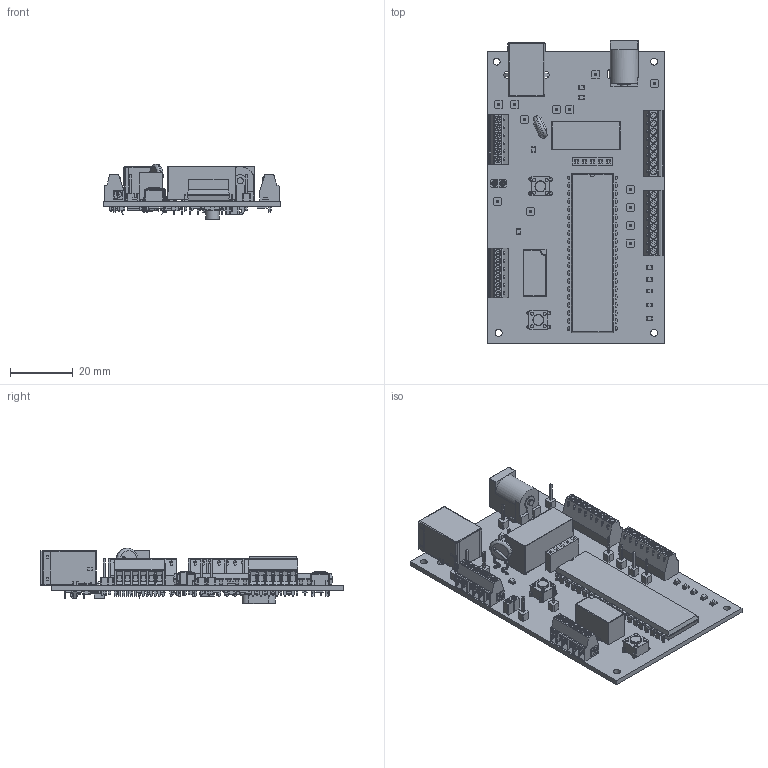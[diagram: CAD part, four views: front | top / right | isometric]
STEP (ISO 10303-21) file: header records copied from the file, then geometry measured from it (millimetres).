
FILE_DESCRIPTION(('KiCad electronic assembly'),'2;1');
FILE_NAME('2SP_Saila.step','2019-05-26T16:36:20',('An Author'),( 'A Company'),'Open CASCADE STEP processor 6.9', 'KiCad to STEP converter','Unknown');
FILE_SCHEMA(('AUTOMOTIVE_DESIGN { 1 0 10303 214 1 1 1 1 }'));
Length unit declared in the file: millimetre
Products named in the file (55): Open CASCADE STEP translator 6.9 1; TMR_2411; SOLID; Fiche_alimentation_DC; C_0805_2012Metric; CP_EIA-3528-12_Kemet-T; C_1812_4532Metric; C_1206_3216Metric; LED_0805_2012Metric; SOT-23; D_MiniMELF; D_SOD-123; RXE020; COMPOUND; Polyswitch_MICROSMD110F-2; DIP-40_W15.24mm; TSSOP-14_4.4x5mm_P0.65mm; Bornier_Phoenix_Contact_x6cts_1725698; Bornier_Phoenix_Contact_x8cts_1725711; PinHeader_1x01_P2.54mm_Vertical; USB-B_Molex_67068-7041_Horizontal; PinSocket_1x05_P2.54mm_Vertical; Relay_DPDT_Omron_G6S-2; Choke_TCK-062; R_1206_3216Metric; SW_PUSH_6mm; crystal_hc-49-smd; SOIC-8_3.9x4.9mm_P1.27mm; Connecteur_Single_Row_2-54mm_2cts_Preci-DIP_801-87-002-10-012101; CP_EIA-2012-12_Kemet-R
Assembly tree (104 placements, depth 3):
  Open CASCADE STEP translator 6.9 1
    TMR_2411
      SOLID
    Fiche_alimentation_DC
      SOLID
    C_0805_2012Metric  x9
      SOLID
    CP_EIA-3528-12_Kemet-T
      SOLID
    C_1812_4532Metric
      SOLID
    C_1206_3216Metric
      SOLID
    LED_0805_2012Metric  x9
      SOLID
    SOT-23  x3
      SOLID
    D_MiniMELF
      SOLID
    D_SOD-123  x2
      SOLID
    RXE020
      COMPOUND
    Polyswitch_MICROSMD110F-2
      SOLID
    DIP-40_W15.24mm
      SOLID
    TSSOP-14_4.4x5mm_P0.65mm
      SOLID
    Bornier_Phoenix_Contact_x6cts_1725698  x2
      COMPOUND
    Bornier_Phoenix_Contact_x8cts_1725711  x2
      COMPOUND
    PinHeader_1x01_P2.54mm_Vertical  x13
      SOLID
    USB-B_Molex_67068-7041_Horizontal
      COMPOUND
    PinSocket_1x05_P2.54mm_Vertical
      SOLID
    Relay_DPDT_Omron_G6S-2
      COMPOUND
    Choke_TCK-062
    R_1206_3216Metric  x17
      SOLID
    SW_PUSH_6mm  x2
      SOLID
    crystal_hc-49-smd
      COMPOUND
    SOIC-8_3.9x4.9mm_P1.27mm
      SOLID
    Connecteur_Single_Row_2-54mm_2cts_Preci-DIP_801-87-002-10-012101
      SOLID
    CP_EIA-2012-12_Kemet-R
      SOLID
    COMPOUND
Bounding box: 56.5 x 96.6 x 17.69 mm (x, y, z)
Volume: 20331.2 mm3; surface area: 24959 mm2
Topology: 103 solids, 103 shells, 5931 faces, 15066 edges, 9558 vertices
Faces by surface type: plane 4090, cylinder 1391, bspline 325, sphere 74, cone 31, torus 18, revolution 2
Full cylindrical faces by diameter (mm): 0.5 x1, 0.6 x1, 0.8 x42, 0.92 x4, 1 x43, 1.1 x36, 1.35 x2, 1.4 x3, 2.2 x4, 2.33 x2, 3.5 x2
Entity records: 260511 total; most frequent: CARTESIAN_POINT 59043, DIRECTION 33275, LINE 22020, VECTOR 22020, ORIENTED_EDGE 17868, PCURVE 17868, DEFINITIONAL_REPRESENTATION 17868, EDGE_CURVE 8934
